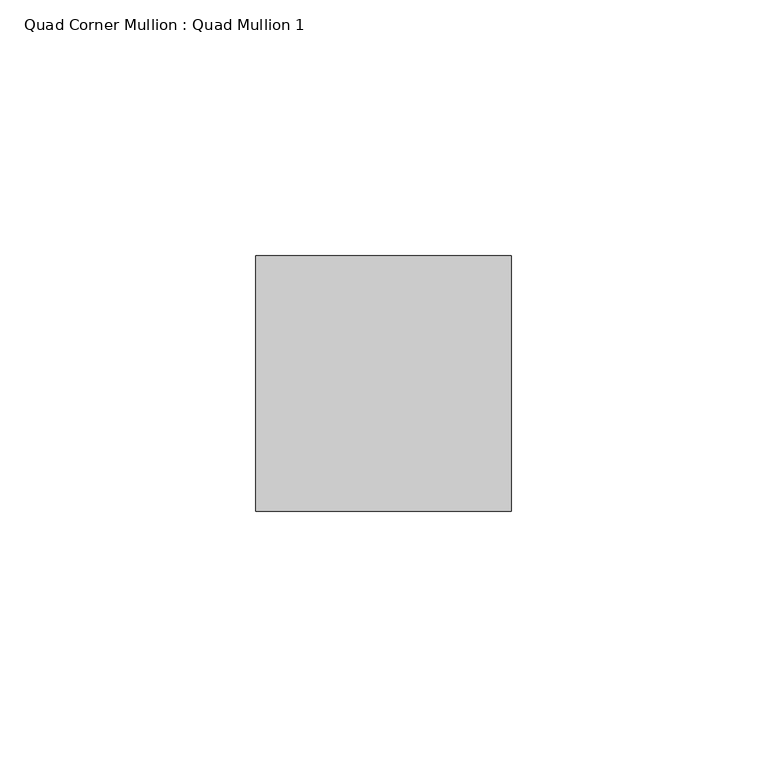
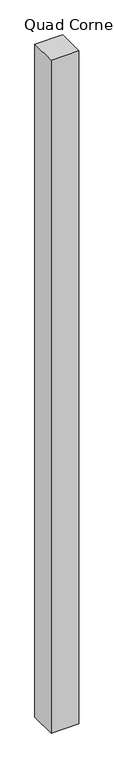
"""IFC4 building model written with IfcOpenShell, lengths in millimetres: member geometry, Quad Corner Mullion : Quad Mullion 1."""

from ifc_helpers import new_model, si_unit, frame, origin, place, context, project, spatial, polyline, outline, extrude, source, transform, mapped, element, save


def quad_corner_mullion_quad_mullion_1_da07d112(model_context):
    return source(origin(), model_context, "Body", "SweptSolid", [
        extrude(outline(polyline([(25.0, -25.0), (-25.0, -25.0), (-25.0, 25.0), (25.0, 25.0), (25.0, -25.0)])), frame((0.0, 0.0, -1274.6505764), z_axis=(0.0, 0.0, 1.0), x_axis=(1.0, 0.0, 0.0)), (0.0, 0.0, 1.0), 1274.6505764),
    ])


if __name__ == "__main__":
    model = new_model("IFC4")
    model_context = context("Model", 3, world=origin())
    ifc_project = project(units=[si_unit("LENGTHUNIT", "METRE", prefix="MILLI")], contexts=[model_context])
    site = spatial("IfcSite", under=ifc_project)
    building = spatial("IfcBuilding", under=site)
    placement = place(None, origin())
    quad_corner_mullion_quad_mullion_1_shape = quad_corner_mullion_quad_mullion_1_da07d112(model_context)
    element("IfcMember", 1, ObjectType="Quad Corner Mullion : Quad Mullion 1", at=placement, inside=building, context=model_context, shape_type="MappedRepresentation", body=[
        mapped(quad_corner_mullion_quad_mullion_1_shape, transform((0.0, 0.0, 0.0), x_axis=(1.0, 0.0, 0.0), y_axis=(0.0, 1.0, 0.0), z_axis=(0.0, 0.0, 1.0))),
    ])
    save(model, "model.ifc")
